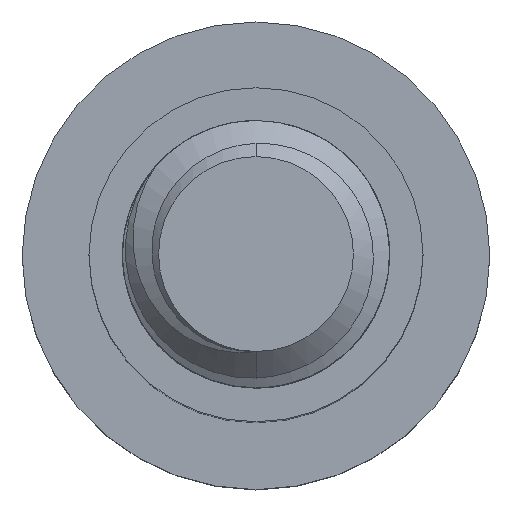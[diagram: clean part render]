
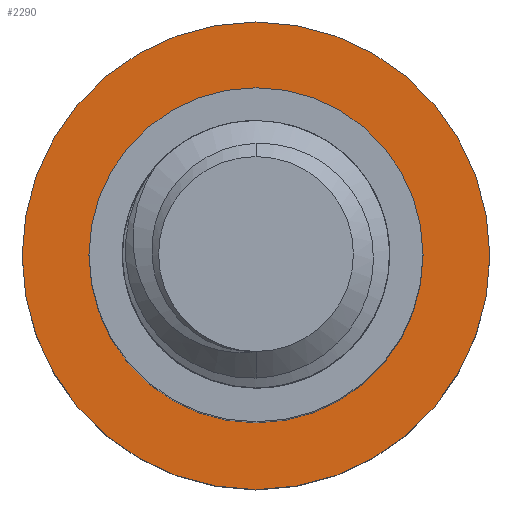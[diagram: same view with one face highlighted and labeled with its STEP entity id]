
A CAD part, top view. The second image highlights one B-rep face of the part: STEP entity #2290.
In plain terms, the highlighted planar face has unit normal (0, 0, 1).
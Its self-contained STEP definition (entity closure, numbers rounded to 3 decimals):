
#187 = VERTEX_POINT ( 'NONE', #3113 ) ;
#256 = CARTESIAN_POINT ( 'NONE',  ( 0., 0., -18. ) ) ;
#273 = ORIENTED_EDGE ( 'NONE', *, *, #3938, .F. ) ;
#337 = DIRECTION ( 'NONE',  ( 0., 0., -1. ) ) ;
#630 = CIRCLE ( 'NONE', #3158, 7. ) ;
#655 = ORIENTED_EDGE ( 'NONE', *, *, #2077, .T. ) ;
#767 = AXIS2_PLACEMENT_3D ( 'NONE', #2863, #4195, #3542 ) ;
#801 = DIRECTION ( 'NONE',  ( 0., 0., -1. ) ) ;
#838 = VERTEX_POINT ( 'NONE', #3309 ) ;
#861 = EDGE_LOOP ( 'NONE', ( #1988, #655 ) ) ;
#973 = VERTEX_POINT ( 'NONE', #3553 ) ;
#1248 = CIRCLE ( 'NONE', #1518, 5. ) ;
#1252 = DIRECTION ( 'NONE',  ( -1., 0., 0. ) ) ;
#1518 = AXIS2_PLACEMENT_3D ( 'NONE', #256, #337, #3666 ) ;
#1549 = DIRECTION ( 'NONE',  ( 0., 0., -1. ) ) ;
#1552 = FACE_OUTER_BOUND ( 'NONE', #3320, .T. ) ;
#1654 = CARTESIAN_POINT ( 'NONE',  ( -5., 0., -18. ) ) ;
#1722 = AXIS2_PLACEMENT_3D ( 'NONE', #3733, #801, #2471 ) ;
#1799 = DIRECTION ( 'NONE',  ( -1., 0., 0. ) ) ;
#1988 = ORIENTED_EDGE ( 'NONE', *, *, #2576, .T. ) ;
#2077 = EDGE_CURVE ( 'NONE', #838, #2558, #3164, .T. ) ;
#2146 = DIRECTION ( 'NONE',  ( 0., 0., -1. ) ) ;
#2152 = PLANE ( 'NONE',  #767 ) ;
#2241 = FACE_BOUND ( 'NONE', #861, .T. ) ;
#2290 = ADVANCED_FACE ( 'NONE', ( #2241, #1552 ), #2152, .F. ) ;
#2426 = ORIENTED_EDGE ( 'NONE', *, *, #3334, .F. ) ;
#2440 = CARTESIAN_POINT ( 'NONE',  ( 0., 0., -18. ) ) ;
#2471 = DIRECTION ( 'NONE',  ( -1., 0., 0. ) ) ;
#2558 = VERTEX_POINT ( 'NONE', #1654 ) ;
#2576 = EDGE_CURVE ( 'NONE', #2558, #838, #1248, .T. ) ;
#2619 = AXIS2_PLACEMENT_3D ( 'NONE', #2882, #1549, #1252 ) ;
#2863 = CARTESIAN_POINT ( 'NONE',  ( 0., 0., -18. ) ) ;
#2882 = CARTESIAN_POINT ( 'NONE',  ( 0., 0., -18. ) ) ;
#3113 = CARTESIAN_POINT ( 'NONE',  ( -7., 0., -18. ) ) ;
#3158 = AXIS2_PLACEMENT_3D ( 'NONE', #2440, #2146, #1799 ) ;
#3164 = CIRCLE ( 'NONE', #1722, 5. ) ;
#3237 = CIRCLE ( 'NONE', #2619, 7. ) ;
#3309 = CARTESIAN_POINT ( 'NONE',  ( 5., 0., -18. ) ) ;
#3320 = EDGE_LOOP ( 'NONE', ( #273, #2426 ) ) ;
#3334 = EDGE_CURVE ( 'NONE', #187, #973, #3237, .T. ) ;
#3542 = DIRECTION ( 'NONE',  ( -1., 0., 0. ) ) ;
#3553 = CARTESIAN_POINT ( 'NONE',  ( 7., 0., -18. ) ) ;
#3666 = DIRECTION ( 'NONE',  ( -1., 0., 0. ) ) ;
#3733 = CARTESIAN_POINT ( 'NONE',  ( 0., 0., -18. ) ) ;
#3938 = EDGE_CURVE ( 'NONE', #973, #187, #630, .T. ) ;
#4195 = DIRECTION ( 'NONE',  ( 0., 0., -1. ) ) ;
